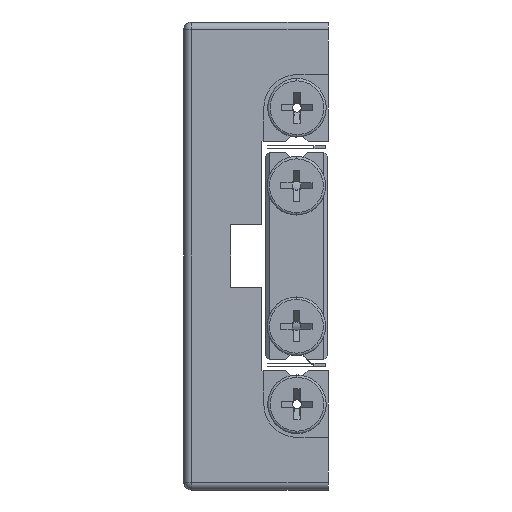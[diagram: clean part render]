
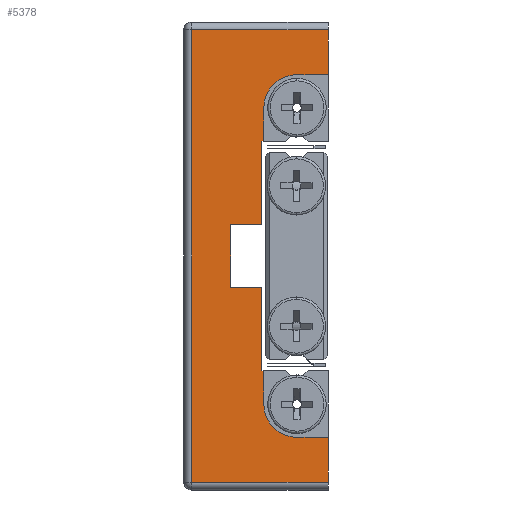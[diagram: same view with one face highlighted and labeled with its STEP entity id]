
A CAD part, left-side view. The second image highlights one B-rep face of the part: STEP entity #5378.
In plain terms, the highlighted planar face has unit normal (-1, 0, 0).
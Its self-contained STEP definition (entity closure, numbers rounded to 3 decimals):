
#6 = VECTOR ( 'NONE', #13612, 1000. ) ;
#169 = EDGE_CURVE ( 'NONE', #19657, #2994, #21667, .T. ) ;
#340 = CARTESIAN_POINT ( 'NONE',  ( -36.964, -5.836, -23.25 ) ) ;
#434 = VECTOR ( 'NONE', #15192, 1000. ) ;
#665 = VECTOR ( 'NONE', #7323, 1000. ) ;
#935 = LINE ( 'NONE', #11233, #11139 ) ;
#992 = VECTOR ( 'NONE', #8375, 1000. ) ;
#1027 = LINE ( 'NONE', #9641, #11223 ) ;
#1347 = LINE ( 'NONE', #25430, #22069 ) ;
#1527 = VERTEX_POINT ( 'NONE', #2855 ) ;
#1640 = LINE ( 'NONE', #6397, #992 ) ;
#1652 = DIRECTION ( 'NONE',  ( 0., 0., -1. ) ) ;
#2471 = VERTEX_POINT ( 'NONE', #6201 ) ;
#2855 = CARTESIAN_POINT ( 'NONE',  ( -36.964, -1.336, -14.7 ) ) ;
#2865 = ORIENTED_EDGE ( 'NONE', *, *, #4911, .F. ) ;
#2941 = DIRECTION ( 'NONE',  ( 0., 1., 0. ) ) ;
#2994 = VERTEX_POINT ( 'NONE', #11880 ) ;
#3152 = CARTESIAN_POINT ( 'NONE',  ( -36.964, -9.836, -30. ) ) ;
#3192 = CARTESIAN_POINT ( 'NONE',  ( -36.964, 8.664, -30. ) ) ;
#3280 = EDGE_CURVE ( 'NONE', #17845, #24621, #13807, .T. ) ;
#3884 = AXIS2_PLACEMENT_3D ( 'NONE', #3192, #19246, #7291 ) ;
#4086 = VERTEX_POINT ( 'NONE', #13778 ) ;
#4548 = EDGE_CURVE ( 'NONE', #10001, #22944, #21820, .T. ) ;
#4671 = EDGE_CURVE ( 'NONE', #2471, #23876, #13427, .T. ) ;
#4911 = EDGE_CURVE ( 'NONE', #20105, #2994, #16240, .T. ) ;
#5063 = VERTEX_POINT ( 'NONE', #15454 ) ;
#5284 = PLANE ( 'NONE',  #3884 ) ;
#5378 = ADVANCED_FACE ( 'NONE', ( #8084 ), #5284, .F. ) ;
#5553 = ORIENTED_EDGE ( 'NONE', *, *, #5944, .T. ) ;
#5808 = VECTOR ( 'NONE', #18024, 1000. ) ;
#5944 = EDGE_CURVE ( 'NONE', #24621, #19657, #1347, .T. ) ;
#6187 = LINE ( 'NONE', #19095, #665 ) ;
#6201 = CARTESIAN_POINT ( 'NONE',  ( -36.964, -5.836, 23.25 ) ) ;
#6397 = CARTESIAN_POINT ( 'NONE',  ( -36.964, -1.336, 4. ) ) ;
#6454 = CARTESIAN_POINT ( 'NONE',  ( -36.964, -5.836, -23.25 ) ) ;
#6460 = EDGE_CURVE ( 'NONE', #17827, #13484, #20009, .T. ) ;
#6778 = CARTESIAN_POINT ( 'NONE',  ( -36.964, -9.836, -29. ) ) ;
#6939 = CARTESIAN_POINT ( 'NONE',  ( -36.964, 2.664, 4. ) ) ;
#7090 = CARTESIAN_POINT ( 'NONE',  ( -36.964, -1.336, 4. ) ) ;
#7238 = ORIENTED_EDGE ( 'NONE', *, *, #24565, .F. ) ;
#7291 = DIRECTION ( 'NONE',  ( 0., 0., -1. ) ) ;
#7323 = DIRECTION ( 'NONE',  ( 0., 0., -1. ) ) ;
#7421 = VECTOR ( 'NONE', #9952, 1000. ) ;
#7426 = DIRECTION ( 'NONE',  ( 0., 1., 0. ) ) ;
#7884 = ORIENTED_EDGE ( 'NONE', *, *, #9127, .F. ) ;
#8029 = CARTESIAN_POINT ( 'NONE',  ( -36.964, 8.664, 29. ) ) ;
#8084 = FACE_OUTER_BOUND ( 'NONE', #21787, .T. ) ;
#8294 = VECTOR ( 'NONE', #7426, 1000. ) ;
#8375 = DIRECTION ( 'NONE',  ( 0., 0., -1. ) ) ;
#8509 = VECTOR ( 'NONE', #26047, 1000. ) ;
#8554 = ORIENTED_EDGE ( 'NONE', *, *, #14616, .F. ) ;
#9127 = EDGE_CURVE ( 'NONE', #5063, #15010, #1640, .T. ) ;
#9579 = DIRECTION ( 'NONE',  ( 0., -1., 0. ) ) ;
#9641 = CARTESIAN_POINT ( 'NONE',  ( -36.964, -1.336, 14.7 ) ) ;
#9952 = DIRECTION ( 'NONE',  ( 0., 1., 0. ) ) ;
#10001 = VERTEX_POINT ( 'NONE', #22149 ) ;
#10029 = ORIENTED_EDGE ( 'NONE', *, *, #24004, .F. ) ;
#10394 = CARTESIAN_POINT ( 'NONE',  ( -36.964, 7.664, 29. ) ) ;
#10528 = LINE ( 'NONE', #10960, #25791 ) ;
#10960 = CARTESIAN_POINT ( 'NONE',  ( -36.964, -1.336, -14.7 ) ) ;
#11139 = VECTOR ( 'NONE', #13230, 1000. ) ;
#11223 = VECTOR ( 'NONE', #11701, 1000. ) ;
#11233 = CARTESIAN_POINT ( 'NONE',  ( -36.964, -1.586, -19. ) ) ;
#11463 = CARTESIAN_POINT ( 'NONE',  ( -36.964, 2.664, 4. ) ) ;
#11487 = EDGE_CURVE ( 'NONE', #15010, #14643, #14219, .T. ) ;
#11701 = DIRECTION ( 'NONE',  ( 0., 1., 0. ) ) ;
#11705 = ORIENTED_EDGE ( 'NONE', *, *, #3280, .T. ) ;
#11880 = CARTESIAN_POINT ( 'NONE',  ( -36.964, -9.836, -23.25 ) ) ;
#11882 = DIRECTION ( 'NONE',  ( -1., 0., 0. ) ) ;
#12398 = ORIENTED_EDGE ( 'NONE', *, *, #4671, .F. ) ;
#12950 = DIRECTION ( 'NONE',  ( 0., 0., -1. ) ) ;
#13230 = DIRECTION ( 'NONE',  ( 0., 0., -1. ) ) ;
#13241 = ORIENTED_EDGE ( 'NONE', *, *, #11487, .F. ) ;
#13427 = CIRCLE ( 'NONE', #18313, 4.25 ) ;
#13484 = VERTEX_POINT ( 'NONE', #16348 ) ;
#13612 = DIRECTION ( 'NONE',  ( 0., -1., 0. ) ) ;
#13721 = CIRCLE ( 'NONE', #25362, 4.25 ) ;
#13761 = DIRECTION ( 'NONE',  ( -1., 0., 0. ) ) ;
#13778 = CARTESIAN_POINT ( 'NONE',  ( -36.964, -1.586, 14.7 ) ) ;
#13807 = LINE ( 'NONE', #25922, #8509 ) ;
#14081 = ORIENTED_EDGE ( 'NONE', *, *, #169, .T. ) ;
#14219 = LINE ( 'NONE', #11463, #8294 ) ;
#14400 = CARTESIAN_POINT ( 'NONE',  ( -36.964, 2.664, -4. ) ) ;
#14427 = VERTEX_POINT ( 'NONE', #25823 ) ;
#14460 = DIRECTION ( 'NONE',  ( 0., -1., 0. ) ) ;
#14616 = EDGE_CURVE ( 'NONE', #23876, #4086, #20584, .T. ) ;
#14643 = VERTEX_POINT ( 'NONE', #6939 ) ;
#14726 = VECTOR ( 'NONE', #15779, 1000. ) ;
#15010 = VERTEX_POINT ( 'NONE', #7090 ) ;
#15192 = DIRECTION ( 'NONE',  ( 0., 0., 1. ) ) ;
#15454 = CARTESIAN_POINT ( 'NONE',  ( -36.964, -1.336, 14.7 ) ) ;
#15630 = VECTOR ( 'NONE', #14460, 1000. ) ;
#15669 = ORIENTED_EDGE ( 'NONE', *, *, #25935, .F. ) ;
#15779 = DIRECTION ( 'NONE',  ( 0., -1., 0. ) ) ;
#16140 = LINE ( 'NONE', #17559, #6 ) ;
#16240 = LINE ( 'NONE', #6454, #15630 ) ;
#16250 = ORIENTED_EDGE ( 'NONE', *, *, #17500, .F. ) ;
#16348 = CARTESIAN_POINT ( 'NONE',  ( -36.964, -1.336, -4. ) ) ;
#16840 = EDGE_CURVE ( 'NONE', #1527, #14427, #16140, .T. ) ;
#16874 = DIRECTION ( 'NONE',  ( 0., 0., -1. ) ) ;
#16895 = ORIENTED_EDGE ( 'NONE', *, *, #17695, .T. ) ;
#17163 = ORIENTED_EDGE ( 'NONE', *, *, #17192, .F. ) ;
#17192 = EDGE_CURVE ( 'NONE', #14643, #17827, #6187, .T. ) ;
#17414 = LINE ( 'NONE', #8029, #7421 ) ;
#17500 = EDGE_CURVE ( 'NONE', #13484, #1527, #10528, .T. ) ;
#17559 = CARTESIAN_POINT ( 'NONE',  ( -36.964, -9.836, -14.7 ) ) ;
#17611 = LINE ( 'NONE', #22881, #21607 ) ;
#17695 = EDGE_CURVE ( 'NONE', #22944, #17845, #17414, .T. ) ;
#17827 = VERTEX_POINT ( 'NONE', #14400 ) ;
#17845 = VERTEX_POINT ( 'NONE', #10394 ) ;
#18009 = CARTESIAN_POINT ( 'NONE',  ( -36.964, -9.836, -30. ) ) ;
#18024 = DIRECTION ( 'NONE',  ( 0., 0., 1. ) ) ;
#18313 = AXIS2_PLACEMENT_3D ( 'NONE', #25686, #13761, #1652 ) ;
#18546 = EDGE_CURVE ( 'NONE', #14427, #24143, #935, .T. ) ;
#18898 = CARTESIAN_POINT ( 'NONE',  ( -36.964, -1.586, 19. ) ) ;
#19095 = CARTESIAN_POINT ( 'NONE',  ( -36.964, 2.664, -4. ) ) ;
#19246 = DIRECTION ( 'NONE',  ( 1., 0., 0. ) ) ;
#19657 = VERTEX_POINT ( 'NONE', #6778 ) ;
#19932 = ORIENTED_EDGE ( 'NONE', *, *, #6460, .F. ) ;
#20009 = LINE ( 'NONE', #21640, #14726 ) ;
#20105 = VERTEX_POINT ( 'NONE', #340 ) ;
#20161 = ORIENTED_EDGE ( 'NONE', *, *, #16840, .F. ) ;
#20402 = CARTESIAN_POINT ( 'NONE',  ( -36.964, -9.836, 29. ) ) ;
#20415 = ORIENTED_EDGE ( 'NONE', *, *, #4548, .T. ) ;
#20584 = LINE ( 'NONE', #18898, #25255 ) ;
#21607 = VECTOR ( 'NONE', #2941, 1000. ) ;
#21640 = CARTESIAN_POINT ( 'NONE',  ( -36.964, -1.336, -4. ) ) ;
#21667 = LINE ( 'NONE', #18009, #5808 ) ;
#21787 = EDGE_LOOP ( 'NONE', ( #11705, #5553, #14081, #2865, #10029, #25374, #20161, #16250, #19932, #17163, #13241, #7884, #7238, #8554, #12398, #15669, #20415, #16895 ) ) ;
#21820 = LINE ( 'NONE', #3152, #434 ) ;
#22069 = VECTOR ( 'NONE', #9579, 1000. ) ;
#22149 = CARTESIAN_POINT ( 'NONE',  ( -36.964, -9.836, 23.25 ) ) ;
#22202 = CARTESIAN_POINT ( 'NONE',  ( -36.964, -1.586, -19. ) ) ;
#22585 = CARTESIAN_POINT ( 'NONE',  ( -36.964, -1.586, 19. ) ) ;
#22881 = CARTESIAN_POINT ( 'NONE',  ( -36.964, -5.836, 23.25 ) ) ;
#22944 = VERTEX_POINT ( 'NONE', #20402 ) ;
#23726 = CARTESIAN_POINT ( 'NONE',  ( -36.964, 7.664, -29. ) ) ;
#23764 = CARTESIAN_POINT ( 'NONE',  ( -36.964, -5.836, -19. ) ) ;
#23876 = VERTEX_POINT ( 'NONE', #22585 ) ;
#24004 = EDGE_CURVE ( 'NONE', #24143, #20105, #13721, .T. ) ;
#24143 = VERTEX_POINT ( 'NONE', #22202 ) ;
#24565 = EDGE_CURVE ( 'NONE', #4086, #5063, #1027, .T. ) ;
#24621 = VERTEX_POINT ( 'NONE', #23726 ) ;
#25255 = VECTOR ( 'NONE', #16874, 1000. ) ;
#25362 = AXIS2_PLACEMENT_3D ( 'NONE', #23764, #11882, #25781 ) ;
#25374 = ORIENTED_EDGE ( 'NONE', *, *, #18546, .F. ) ;
#25430 = CARTESIAN_POINT ( 'NONE',  ( -36.964, 8.664, -29. ) ) ;
#25686 = CARTESIAN_POINT ( 'NONE',  ( -36.964, -5.836, 19. ) ) ;
#25781 = DIRECTION ( 'NONE',  ( 0., 0., 1. ) ) ;
#25791 = VECTOR ( 'NONE', #12950, 1000. ) ;
#25823 = CARTESIAN_POINT ( 'NONE',  ( -36.964, -1.586, -14.7 ) ) ;
#25922 = CARTESIAN_POINT ( 'NONE',  ( -36.964, 7.664, -30. ) ) ;
#25935 = EDGE_CURVE ( 'NONE', #10001, #2471, #17611, .T. ) ;
#26047 = DIRECTION ( 'NONE',  ( 0., 0., -1. ) ) ;
